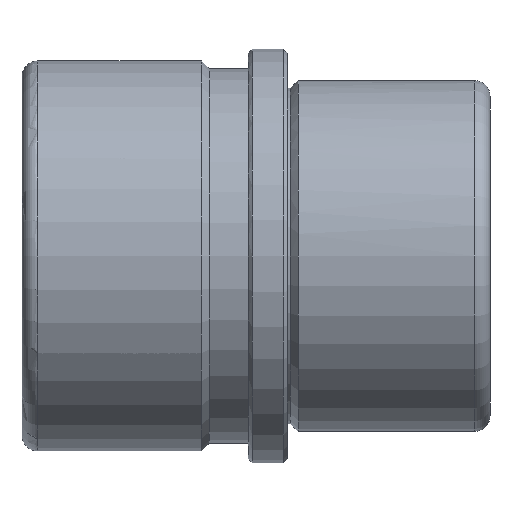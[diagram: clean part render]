
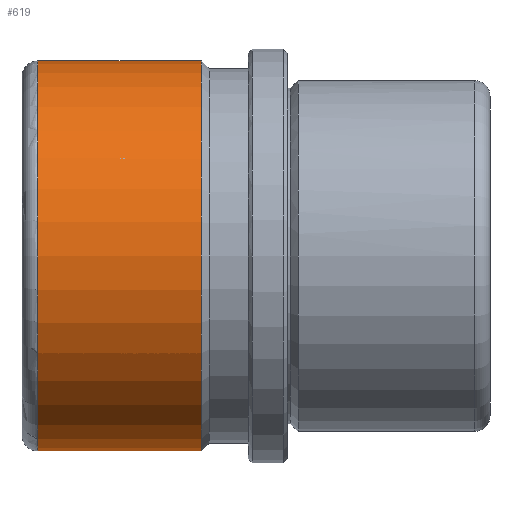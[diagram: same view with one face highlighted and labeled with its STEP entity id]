
A CAD part, front view. The second image highlights one B-rep face of the part: STEP entity #619.
In plain terms, the highlighted cylindrical face has radius 25 mm (diameter 50 mm), a partial arc.
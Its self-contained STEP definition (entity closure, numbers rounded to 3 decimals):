
#404=CARTESIAN_POINT('Line Origine',(26.,0.,25.)) ;
#408=CARTESIAN_POINT('Vertex',(-11.,0.,25.)) ;
#410=CARTESIAN_POINT('Vertex',(-32.,0.,25.)) ;
#424=CARTESIAN_POINT('Vertex',(-11.,0.,-25.)) ;
#427=CARTESIAN_POINT('Line Origine',(26.,0.,-25.)) ;
#431=CARTESIAN_POINT('Vertex',(-32.,0.,-25.)) ;
#582=CARTESIAN_POINT('Axis2P3D Location',(26.,0.,0.)) ;
#587=CARTESIAN_POINT('Axis2P3D Location',(-11.,0.,0.)) ;
#591=CARTESIAN_POINT('Vertex',(-11.,-25.,0.)) ;
#594=CARTESIAN_POINT('Axis2P3D Location',(-11.,0.,0.)) ;
#599=CARTESIAN_POINT('Axis2P3D Location',(-32.,0.,0.)) ;
#603=CARTESIAN_POINT('Vertex',(-32.,-25.,0.)) ;
#606=CARTESIAN_POINT('Axis2P3D Location',(-32.,0.,0.)) ;
#405=DIRECTION('Vector Direction',(-1.,0.,0.)) ;
#428=DIRECTION('Vector Direction',(-1.,0.,0.)) ;
#583=DIRECTION('Axis2P3D Direction',(-1.,-0.,-0.)) ;
#584=DIRECTION('Axis2P3D XDirection',(0.,0.,-1.)) ;
#588=DIRECTION('Axis2P3D Direction',(-1.,-0.,-0.)) ;
#595=DIRECTION('Axis2P3D Direction',(-1.,-0.,-0.)) ;
#600=DIRECTION('Axis2P3D Direction',(-1.,-0.,-0.)) ;
#607=DIRECTION('Axis2P3D Direction',(-1.,-0.,-0.)) ;
#585=AXIS2_PLACEMENT_3D('Cylinder Axis2P3D',#582,#583,#584) ;
#589=AXIS2_PLACEMENT_3D('Circle Axis2P3D',#587,#588,$) ;
#596=AXIS2_PLACEMENT_3D('Circle Axis2P3D',#594,#595,$) ;
#601=AXIS2_PLACEMENT_3D('Circle Axis2P3D',#599,#600,$) ;
#608=AXIS2_PLACEMENT_3D('Circle Axis2P3D',#606,#607,$) ;
#612=ORIENTED_EDGE('',*,*,#433,.T.) ;
#613=ORIENTED_EDGE('',*,*,#593,.F.) ;
#614=ORIENTED_EDGE('',*,*,#598,.F.) ;
#615=ORIENTED_EDGE('',*,*,#412,.T.) ;
#616=ORIENTED_EDGE('',*,*,#605,.T.) ;
#617=ORIENTED_EDGE('',*,*,#610,.T.) ;
#406=VECTOR('Line Direction',#405,1.) ;
#429=VECTOR('Line Direction',#428,1.) ;
#619=ADVANCED_FACE('CF 641 32 x 60',(#618),#586,.T.) ;
#590=CIRCLE('generated circle',#589,25.) ;
#597=CIRCLE('generated circle',#596,25.) ;
#602=CIRCLE('generated circle',#601,25.) ;
#609=CIRCLE('generated circle',#608,25.) ;
#586=CYLINDRICAL_SURFACE('generated cylinder',#585,25.) ;
#412=EDGE_CURVE('',#409,#411,#407,.T.) ;
#433=EDGE_CURVE('',#432,#425,#430,.F.) ;
#593=EDGE_CURVE('',#592,#425,#590,.F.) ;
#598=EDGE_CURVE('',#409,#592,#597,.F.) ;
#605=EDGE_CURVE('',#411,#604,#602,.F.) ;
#610=EDGE_CURVE('',#604,#432,#609,.F.) ;
#611=EDGE_LOOP('',(#612,#613,#614,#615,#616,#617)) ;
#618=FACE_OUTER_BOUND('',#611,.T.) ;
#407=LINE('Line',#404,#406) ;
#430=LINE('Line',#427,#429) ;
#409=VERTEX_POINT('',#408) ;
#411=VERTEX_POINT('',#410) ;
#425=VERTEX_POINT('',#424) ;
#432=VERTEX_POINT('',#431) ;
#592=VERTEX_POINT('',#591) ;
#604=VERTEX_POINT('',#603) ;
